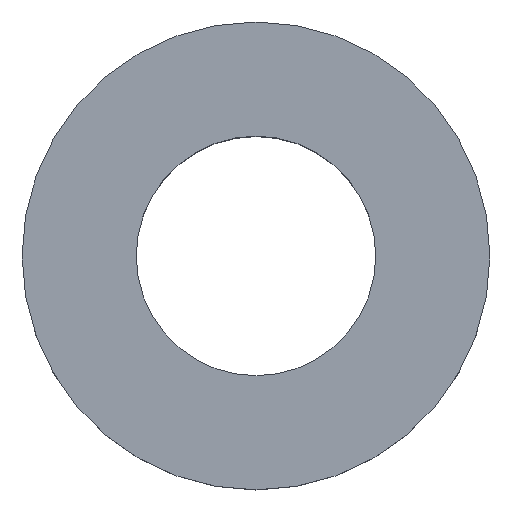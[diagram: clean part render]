
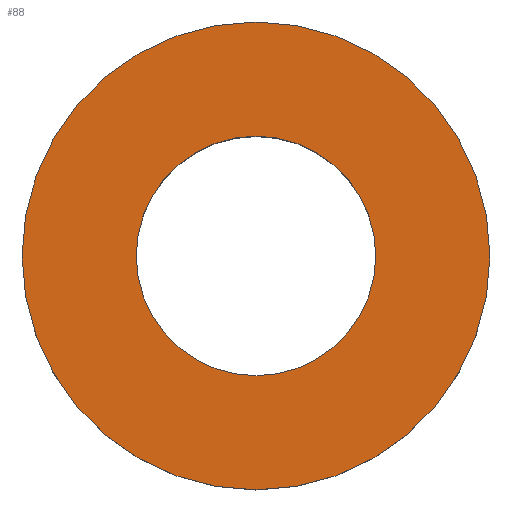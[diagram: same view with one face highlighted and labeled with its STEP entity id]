
A CAD part, top view. The second image highlights one B-rep face of the part: STEP entity #88.
In plain terms, the highlighted planar face has unit normal (0, 0, 1).
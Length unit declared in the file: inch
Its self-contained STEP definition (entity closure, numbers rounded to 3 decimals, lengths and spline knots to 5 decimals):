
#9 = DIRECTION ( 'NONE',  ( -1., 0., 0. ) ) ;
#15 = DIRECTION ( 'NONE',  ( 1., 0., 0. ) ) ;
#22 = EDGE_CURVE ( 'NONE', #222, #222, #132, .T. ) ;
#24 = FACE_OUTER_BOUND ( 'NONE', #104, .T. ) ;
#29 = EDGE_CURVE ( 'NONE', #92, #92, #182, .T. ) ;
#33 = CARTESIAN_POINT ( 'NONE',  ( 0., 1.01181, 0. ) ) ;
#34 = CARTESIAN_POINT ( 'NONE',  ( 0., 0., 0. ) ) ;
#38 = ORIENTED_EDGE ( 'NONE', *, *, #22, .F. ) ;
#50 = DIRECTION ( 'NONE',  ( 0., 0., -1. ) ) ;
#51 = AXIS2_PLACEMENT_3D ( 'NONE', #102, #216, #85 ) ;
#54 = AXIS2_PLACEMENT_3D ( 'NONE', #33, #50, #9 ) ;
#62 = AXIS2_PLACEMENT_3D ( 'NONE', #34, #145, #15 ) ;
#85 = DIRECTION ( 'NONE',  ( 1., 0., 0. ) ) ;
#88 = ADVANCED_FACE ( 'NONE', ( #211, #24 ), #176, .F. ) ;
#92 = VERTEX_POINT ( 'NONE', #181 ) ;
#102 = CARTESIAN_POINT ( 'NONE',  ( 0., 0., 0. ) ) ;
#104 = EDGE_LOOP ( 'NONE', ( #154 ) ) ;
#114 = EDGE_LOOP ( 'NONE', ( #38 ) ) ;
#132 = CIRCLE ( 'NONE', #62, 1.01181 ) ;
#145 = DIRECTION ( 'NONE',  ( 0., 0., 1. ) ) ;
#154 = ORIENTED_EDGE ( 'NONE', *, *, #29, .T. ) ;
#172 = CARTESIAN_POINT ( 'NONE',  ( 1.01181, 0., 0. ) ) ;
#176 = PLANE ( 'NONE',  #54 ) ;
#181 = CARTESIAN_POINT ( 'NONE',  ( 1.97638, 0., 0. ) ) ;
#182 = CIRCLE ( 'NONE', #51, 1.97638 ) ;
#211 = FACE_BOUND ( 'NONE', #114, .T. ) ;
#216 = DIRECTION ( 'NONE',  ( 0., 0., 1. ) ) ;
#222 = VERTEX_POINT ( 'NONE', #172 ) ;
